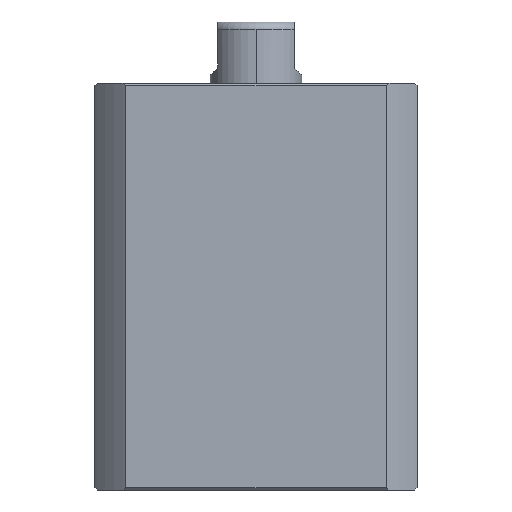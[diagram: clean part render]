
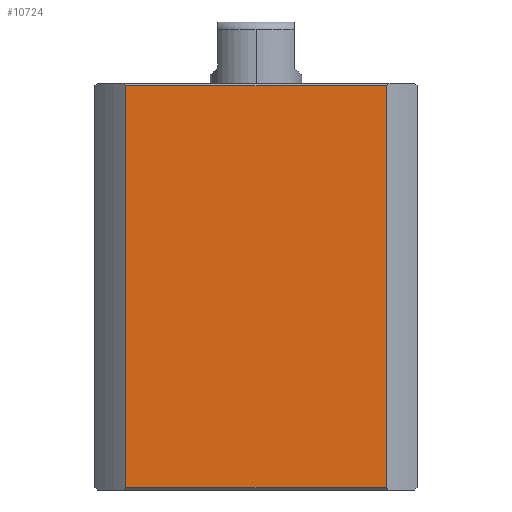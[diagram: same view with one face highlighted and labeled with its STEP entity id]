
A CAD part, left-side view. The second image highlights one B-rep face of the part: STEP entity #10724.
In plain terms, the highlighted planar face has unit normal (-1, 0, 0).
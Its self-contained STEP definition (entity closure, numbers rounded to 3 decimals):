
#68 = EDGE_CURVE ( 'NONE', #1545, #11469, #814, .T. ) ;
#215 = LINE ( 'NONE', #1195, #7433 ) ;
#576 = CARTESIAN_POINT ( 'NONE',  ( -21., 16.971, 0. ) ) ;
#814 = LINE ( 'NONE', #2281, #2903 ) ;
#1170 = EDGE_CURVE ( 'NONE', #1530, #1745, #8772, .T. ) ;
#1195 = CARTESIAN_POINT ( 'NONE',  ( -21., -16.971, 0. ) ) ;
#1199 = ORIENTED_EDGE ( 'NONE', *, *, #68, .T. ) ;
#1327 = ORIENTED_EDGE ( 'NONE', *, *, #7125, .F. ) ;
#1530 = VERTEX_POINT ( 'NONE', #4019 ) ;
#1545 = VERTEX_POINT ( 'NONE', #6868 ) ;
#1745 = VERTEX_POINT ( 'NONE', #3874 ) ;
#2171 = AXIS2_PLACEMENT_3D ( 'NONE', #6233, #8064, #2559 ) ;
#2281 = CARTESIAN_POINT ( 'NONE',  ( -21., 21., 52.7 ) ) ;
#2283 = DIRECTION ( 'NONE',  ( 0., 1., 0. ) ) ;
#2559 = DIRECTION ( 'NONE',  ( 0., 1., 0. ) ) ;
#2903 = VECTOR ( 'NONE', #2283, 1000. ) ;
#3541 = LINE ( 'NONE', #576, #8128 ) ;
#3577 = ORIENTED_EDGE ( 'NONE', *, *, #5969, .F. ) ;
#3874 = CARTESIAN_POINT ( 'NONE',  ( -21., -16.971, 0.3 ) ) ;
#4019 = CARTESIAN_POINT ( 'NONE',  ( -21., 16.971, 0.3 ) ) ;
#5321 = PLANE ( 'NONE',  #2171 ) ;
#5956 = FACE_OUTER_BOUND ( 'NONE', #8015, .T. ) ;
#5969 = EDGE_CURVE ( 'NONE', #1545, #1745, #215, .T. ) ;
#6233 = CARTESIAN_POINT ( 'NONE',  ( -21., 21., 53. ) ) ;
#6681 = DIRECTION ( 'NONE',  ( 0., 0., -1. ) ) ;
#6787 = CARTESIAN_POINT ( 'NONE',  ( -21., 21., 0.3 ) ) ;
#6868 = CARTESIAN_POINT ( 'NONE',  ( -21., -16.971, 52.7 ) ) ;
#6934 = DIRECTION ( 'NONE',  ( 0., 0., 1. ) ) ;
#7125 = EDGE_CURVE ( 'NONE', #1530, #11469, #3541, .T. ) ;
#7433 = VECTOR ( 'NONE', #6681, 1000. ) ;
#7743 = DIRECTION ( 'NONE',  ( 0., -1., 0. ) ) ;
#8015 = EDGE_LOOP ( 'NONE', ( #1327, #9114, #3577, #1199 ) ) ;
#8064 = DIRECTION ( 'NONE',  ( 1., 0., 0. ) ) ;
#8128 = VECTOR ( 'NONE', #6934, 1000. ) ;
#8772 = LINE ( 'NONE', #6787, #10860 ) ;
#9114 = ORIENTED_EDGE ( 'NONE', *, *, #1170, .T. ) ;
#10235 = CARTESIAN_POINT ( 'NONE',  ( -21., 16.971, 52.7 ) ) ;
#10724 = ADVANCED_FACE ( 'NONE', ( #5956 ), #5321, .F. ) ;
#10860 = VECTOR ( 'NONE', #7743, 1000. ) ;
#11469 = VERTEX_POINT ( 'NONE', #10235 ) ;
